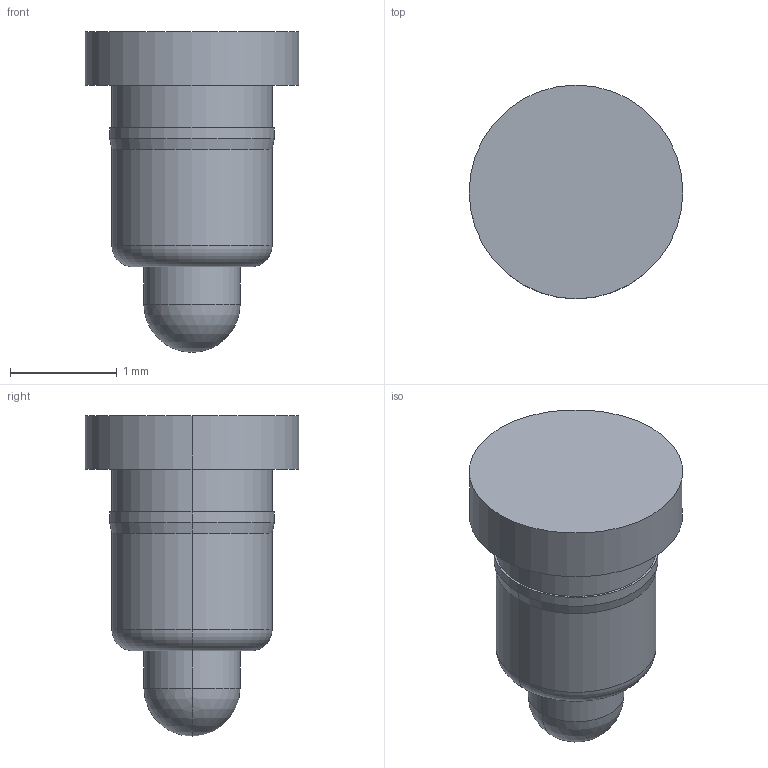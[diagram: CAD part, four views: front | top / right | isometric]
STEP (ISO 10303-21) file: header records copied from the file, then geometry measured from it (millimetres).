
FILE_DESCRIPTION((''),'2;1');
FILE_NAME('NC2896-01PA','2022-07-07T15:00:37',('Administrator'),(''),'CREO PARAMETRIC BY PTC INC, 2018400','CREO PARAMETRIC BY PTC INC, 2018400','');
FILE_SCHEMA(('CONFIG_CONTROL_DESIGN'));
Length unit declared in the file: millimetre
Products named in the file (1): NC2896-01PA
Bounding box: 2 x 2 x 3 mm (x, y, z)
Volume: 5 mm3; surface area: 18.8 mm2
Topology: 1 solids, 1 shells, 20 faces, 40 edges, 23 vertices
Faces by surface type: cylinder 10, plane 4, cone 2, torus 2, sphere 2
Entity records: 550 total; most frequent: DIRECTION 104, CARTESIAN_POINT 81, ORIENTED_EDGE 76, AXIS2_PLACEMENT_3D 46, EDGE_CURVE 38, CIRCLE 26, VERTEX_POINT 23, EDGE_LOOP 23
